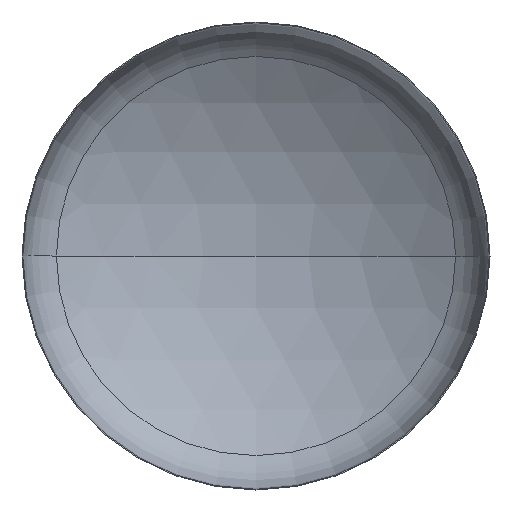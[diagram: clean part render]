
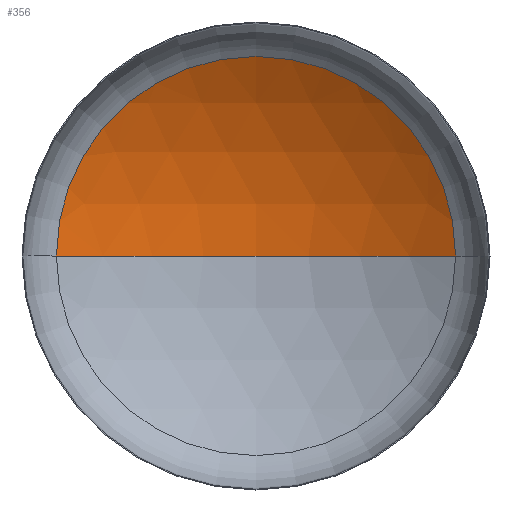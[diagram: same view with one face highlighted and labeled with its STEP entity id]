
A CAD part, front view. The second image highlights one B-rep face of the part: STEP entity #356.
In plain terms, the highlighted spherical face has radius 3200 mm.
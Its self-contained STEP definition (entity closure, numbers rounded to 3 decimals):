
#3 = AXIS2_PLACEMENT_3D ( 'NONE', #162, #171, #147 ) ;
#15 = EDGE_LOOP ( 'NONE', ( #40, #86, #22 ) ) ;
#20 = AXIS2_PLACEMENT_3D ( 'NONE', #165, #114, #285 ) ;
#22 = ORIENTED_EDGE ( 'NONE', *, *, #322, .T. ) ;
#24 = AXIS2_PLACEMENT_3D ( 'NONE', #176, #115, #127 ) ;
#40 = ORIENTED_EDGE ( 'NONE', *, *, #374, .F. ) ;
#86 = ORIENTED_EDGE ( 'NONE', *, *, #330, .T. ) ;
#114 = DIRECTION ( 'NONE',  ( 0., 0., -1. ) ) ;
#115 = DIRECTION ( 'NONE',  ( 0., -1., 0. ) ) ;
#121 = VERTEX_POINT ( 'NONE', #291 ) ;
#127 = DIRECTION ( 'NONE',  ( 1., 0., 0. ) ) ;
#137 = VERTEX_POINT ( 'NONE', #219 ) ;
#139 = VERTEX_POINT ( 'NONE', #216 ) ;
#143 = CIRCLE ( 'NONE', #20, 3200. ) ;
#147 = DIRECTION ( 'NONE',  ( -1., 0., 0. ) ) ;
#161 = DIRECTION ( 'NONE',  ( 0., 0., 1. ) ) ;
#162 = CARTESIAN_POINT ( 'NONE',  ( 0., -2162.085, 0. ) ) ;
#165 = CARTESIAN_POINT ( 'NONE',  ( 0., -2162.085, 0. ) ) ;
#171 = DIRECTION ( 'NONE',  ( 0., 0., -1. ) ) ;
#176 = CARTESIAN_POINT ( 'NONE',  ( 0., 545.332, 0. ) ) ;
#216 = CARTESIAN_POINT ( 'NONE',  ( -1705.841, 545.332, 0. ) ) ;
#219 = CARTESIAN_POINT ( 'NONE',  ( 0., 1037.915, 0. ) ) ;
#263 = CIRCLE ( 'NONE', #24, 1705.841 ) ;
#285 = DIRECTION ( 'NONE',  ( -1., 0., 0. ) ) ;
#291 = CARTESIAN_POINT ( 'NONE',  ( 1705.841, 545.332, 0. ) ) ;
#314 = SPHERICAL_SURFACE ( 'NONE', #3, 3200. ) ;
#322 = EDGE_CURVE ( 'NONE', #121, #139, #263, .T. ) ;
#326 = DIRECTION ( 'NONE',  ( 1., 0., 0. ) ) ;
#330 = EDGE_CURVE ( 'NONE', #137, #121, #143, .T. ) ;
#356 = ADVANCED_FACE ( 'NONE', ( #384 ), #314, .F. ) ;
#374 = EDGE_CURVE ( 'NONE', #137, #139, #376, .T. ) ;
#376 = CIRCLE ( 'NONE', #389, 3200. ) ;
#379 = CARTESIAN_POINT ( 'NONE',  ( 0., -2162.085, 0. ) ) ;
#384 = FACE_OUTER_BOUND ( 'NONE', #15, .T. ) ;
#389 = AXIS2_PLACEMENT_3D ( 'NONE', #379, #161, #326 ) ;
